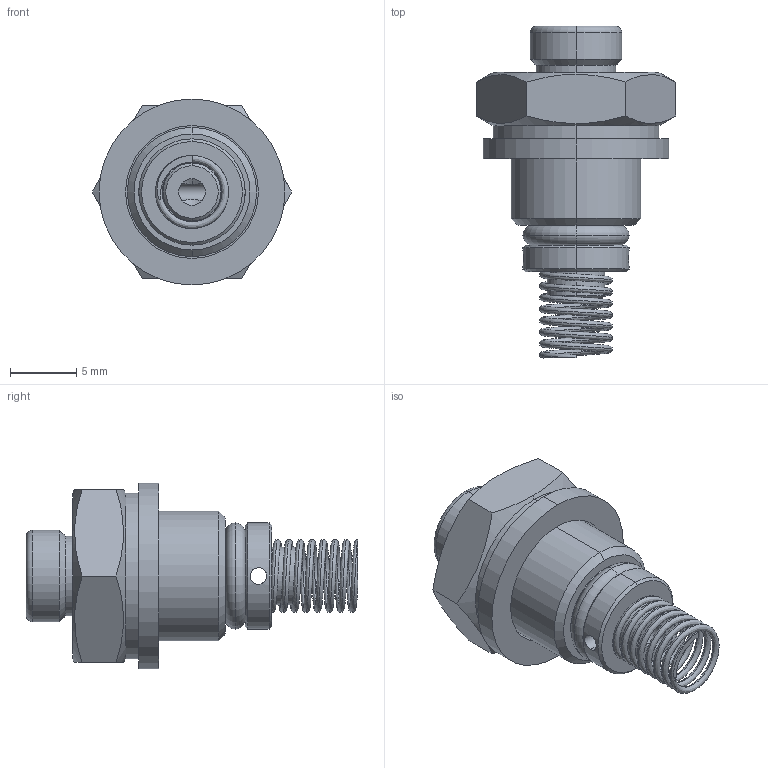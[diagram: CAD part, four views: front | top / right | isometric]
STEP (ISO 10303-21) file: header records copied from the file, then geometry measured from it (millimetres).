
FILE_DESCRIPTION (( 'STEP AP203' ), '1' );
FILE_NAME ('(Inclatec) QC90001.STEP', '2024-06-06T10:48:27', ( '' ), ( '' ), 'SwSTEP 2.0', 'SolidWorks 2023', '' );
FILE_SCHEMA (( 'CONFIG_CONTROL_DESIGN' ));
Length unit declared in the file: millimetre
Products named in the file (1): (Inclatec) QC90001
Bounding box: 15.01 x 25 x 14 mm (x, y, z)
Volume: 1427 mm3; surface area: 2195.4 mm2
Topology: 6 solids, 6 shells, 97 faces, 212 edges, 124 vertices
Faces by surface type: cylinder 35, cone 29, plane 21, torus 10, bspline 2
Entity records: 4552 total; most frequent: CARTESIAN_POINT 2351, DIRECTION 467, ORIENTED_EDGE 420, EDGE_CURVE 210, AXIS2_PLACEMENT_3D 198, VERTEX_POINT 124, EDGE_LOOP 110, CIRCLE 102
